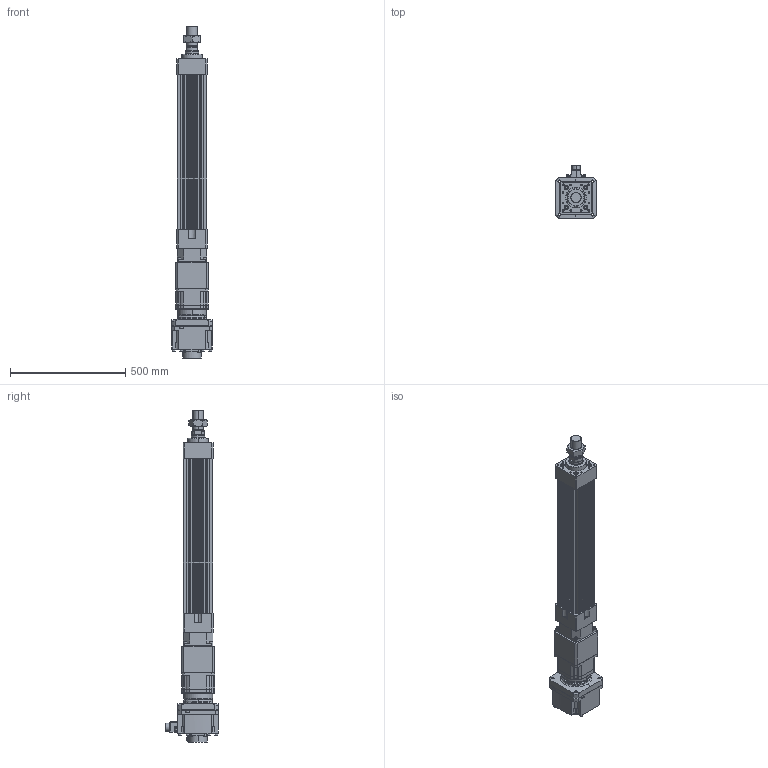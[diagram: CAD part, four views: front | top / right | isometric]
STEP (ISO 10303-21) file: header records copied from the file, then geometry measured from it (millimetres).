
FILE_DESCRIPTION (( 'STEP AP203' ), '1' );
FILE_NAME ('HES130FS(HS)-S450-W020G00-M.STEP', '2023-01-30T11:50:06', ( 'tms' ), ( '' ), 'SwSTEP 2.0', 'SolidWorks 2013', '' );
FILE_SCHEMA (( 'CONFIG_CONTROL_DESIGN' ));
Length unit declared in the file: millimetre
Products named in the file (9): HES130-S450-G142; HES130 ROD M ST450; AB1421; HES130FS(HS)-S450-W020G00-M; M45X1.5P; P1301500001; P0403500801; AB142-003[HG-SR352]; HG-SR202
Assembly tree (8 placements, depth 3):
  HES130FS(HS)-S450-W020G00-M
    HES130-S450-G142
    HES130 ROD M ST450
    M45X1.5P
    AB142-003[HG-SR352]
      AB1421
      P1301500001
      P0403500801
    HG-SR202
Bounding box: 176 x 228.85 x 1437.5 mm (x, y, z)
Volume: 12541387.5 mm3; surface area: 1620500.2 mm2
Topology: 4 solids, 22 shells, 1527 faces, 3928 edges, 2530 vertices
Faces by surface type: cylinder 683, plane 580, cone 182, bspline 76, torus 6
Entity records: 55214 total; most frequent: CARTESIAN_POINT 16756, DIRECTION 8052, ORIENTED_EDGE 7718, EDGE_CURVE 3881, AXIS2_PLACEMENT_3D 3043, VERTEX_POINT 2530, LINE 1966, VECTOR 1966
